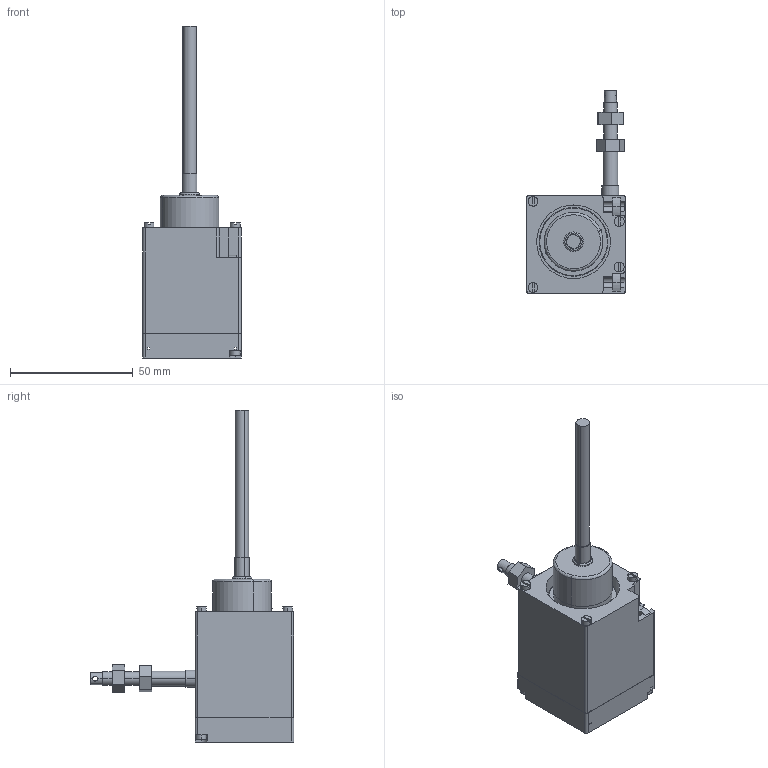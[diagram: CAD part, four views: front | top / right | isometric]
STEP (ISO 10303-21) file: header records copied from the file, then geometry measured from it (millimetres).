
FILE_DESCRIPTION (( 'STEP AP203' ), '1' );
FILE_NAME ('D5.2102.2441.1000.STEP', '2017-02-23T07:39:40', ( '' ), ( '' ), 'SwSTEP 2.0', 'SolidWorks 2013', '' );
FILE_SCHEMA (( 'CONFIG_CONTROL_DESIGN' ));
Length unit declared in the file: millimetre
Products named in the file (1): D5.2102.2441.1000
Bounding box: 40.2 x 82.9 x 135.22 mm (x, y, z)
Surface area: 19620.4 mm2 (no closed solid volume)
Topology: 0 solids, 6 shells, 227 faces, 569 edges, 366 vertices
Faces by surface type: plane 108, cylinder 91, cone 16, bspline 12
Entity records: 7377 total; most frequent: CARTESIAN_POINT 1773, DIRECTION 1191, ORIENTED_EDGE 1118, EDGE_CURVE 569, AXIS2_PLACEMENT_3D 436, VERTEX_POINT 366, VECTOR 319, LINE 319
